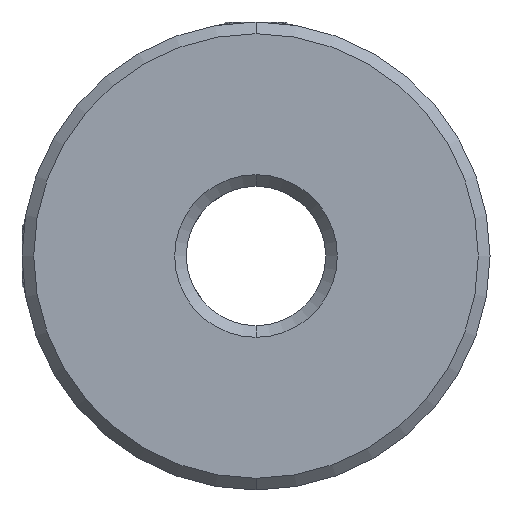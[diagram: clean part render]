
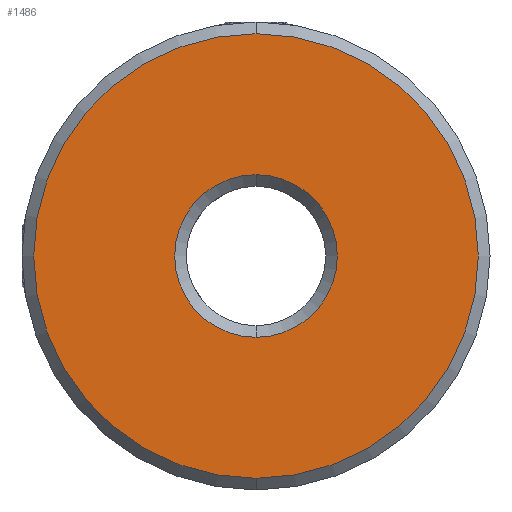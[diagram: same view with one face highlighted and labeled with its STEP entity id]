
A CAD part, front view. The second image highlights one B-rep face of the part: STEP entity #1486.
In plain terms, the highlighted planar face has unit normal (0, -1, 0).
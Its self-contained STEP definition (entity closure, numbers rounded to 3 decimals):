
#45 = DIRECTION ( 'NONE',  ( 0., 0., 1. ) ) ;
#58 = EDGE_CURVE ( 'NONE', #2406, #922, #1891, .T. ) ;
#330 = ORIENTED_EDGE ( 'NONE', *, *, #58, .T. ) ;
#404 = PLANE ( 'NONE',  #1635 ) ;
#478 = CIRCLE ( 'NONE', #1350, 15.2 ) ;
#603 = AXIS2_PLACEMENT_3D ( 'NONE', #889, #3136, #45 ) ;
#622 = CARTESIAN_POINT ( 'NONE',  ( -10.188, -0.277, 0.046 ) ) ;
#636 = DIRECTION ( 'NONE',  ( 0., -1., 0. ) ) ;
#889 = CARTESIAN_POINT ( 'NONE',  ( -10.188, -0.277, 0.046 ) ) ;
#922 = VERTEX_POINT ( 'NONE', #1402 ) ;
#932 = CARTESIAN_POINT ( 'NONE',  ( -10.188, -0.277, 0.046 ) ) ;
#944 = FACE_BOUND ( 'NONE', #2649, .T. ) ;
#986 = CARTESIAN_POINT ( 'NONE',  ( -10.188, -0.277, 0.046 ) ) ;
#987 = DIRECTION ( 'NONE',  ( 0., 0., 1. ) ) ;
#1155 = ORIENTED_EDGE ( 'NONE', *, *, #2505, .T. ) ;
#1236 = DIRECTION ( 'NONE',  ( 0., -1., 0. ) ) ;
#1256 = DIRECTION ( 'NONE',  ( 0., 1., 0. ) ) ;
#1350 = AXIS2_PLACEMENT_3D ( 'NONE', #3478, #1236, #987 ) ;
#1399 = CIRCLE ( 'NONE', #3476, 15.2 ) ;
#1402 = CARTESIAN_POINT ( 'NONE',  ( -10.188, -0.277, -5.517 ) ) ;
#1444 = DIRECTION ( 'NONE',  ( 0., 0., 1. ) ) ;
#1475 = DIRECTION ( 'NONE',  ( 0., 0., 1. ) ) ;
#1486 = ADVANCED_FACE ( 'NONE', ( #3477, #944 ), #404, .F. ) ;
#1586 = CARTESIAN_POINT ( 'NONE',  ( -10.188, -0.277, -15.154 ) ) ;
#1635 = AXIS2_PLACEMENT_3D ( 'NONE', #986, #1256, #1475 ) ;
#1750 = DIRECTION ( 'NONE',  ( 0., 1., 0. ) ) ;
#1771 = CARTESIAN_POINT ( 'NONE',  ( -10.188, -0.277, 15.246 ) ) ;
#1891 = CIRCLE ( 'NONE', #603, 5.563 ) ;
#2145 = EDGE_CURVE ( 'NONE', #2580, #3262, #1399, .T. ) ;
#2178 = CIRCLE ( 'NONE', #2654, 5.563 ) ;
#2406 = VERTEX_POINT ( 'NONE', #3385 ) ;
#2451 = EDGE_LOOP ( 'NONE', ( #1155, #3453 ) ) ;
#2505 = EDGE_CURVE ( 'NONE', #3262, #2580, #478, .T. ) ;
#2580 = VERTEX_POINT ( 'NONE', #1586 ) ;
#2649 = EDGE_LOOP ( 'NONE', ( #3067, #330 ) ) ;
#2654 = AXIS2_PLACEMENT_3D ( 'NONE', #932, #1750, #3430 ) ;
#3067 = ORIENTED_EDGE ( 'NONE', *, *, #3612, .T. ) ;
#3136 = DIRECTION ( 'NONE',  ( 0., 1., 0. ) ) ;
#3262 = VERTEX_POINT ( 'NONE', #1771 ) ;
#3385 = CARTESIAN_POINT ( 'NONE',  ( -10.188, -0.277, 5.608 ) ) ;
#3430 = DIRECTION ( 'NONE',  ( 0., 0., 1. ) ) ;
#3453 = ORIENTED_EDGE ( 'NONE', *, *, #2145, .T. ) ;
#3476 = AXIS2_PLACEMENT_3D ( 'NONE', #622, #636, #1444 ) ;
#3477 = FACE_OUTER_BOUND ( 'NONE', #2451, .T. ) ;
#3478 = CARTESIAN_POINT ( 'NONE',  ( -10.188, -0.277, 0.046 ) ) ;
#3612 = EDGE_CURVE ( 'NONE', #922, #2406, #2178, .T. ) ;
